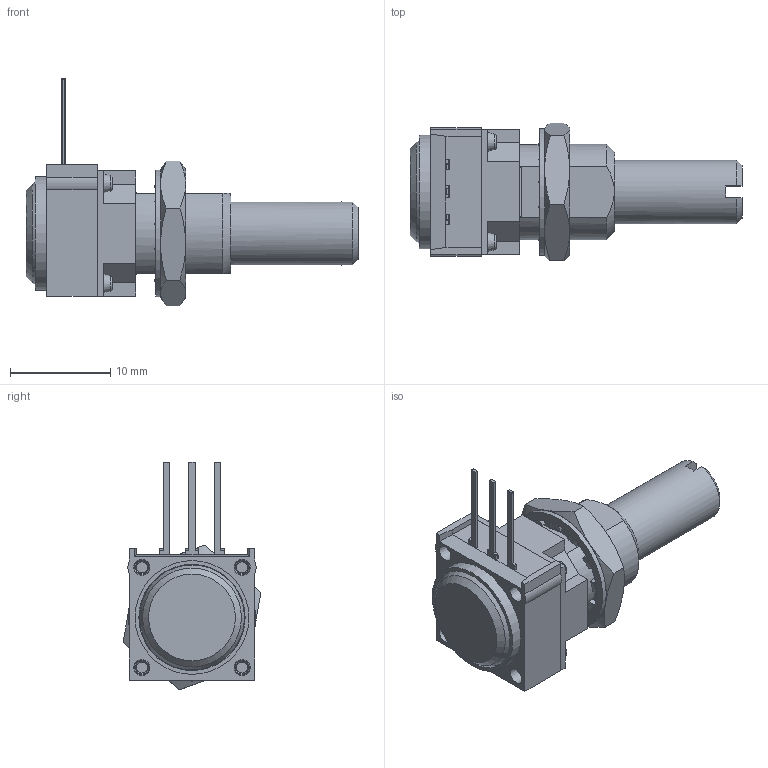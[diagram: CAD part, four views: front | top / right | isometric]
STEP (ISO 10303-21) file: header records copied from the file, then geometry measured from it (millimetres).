
FILE_DESCRIPTION( ( 'Unknown' ), '1' );
FILE_NAME( 'I:/Dev_Pots_Trimmers/01-Plans_Cao/P11/dossier_projet_SAP/P11S1F0GJSX10103MA/P11S1F0GJSX10103MA.stp', 'Unknown', ( 'Unknown' ), ( 'Unknown' ), 'PSStep 15.0.49', 'Unknown', ' ' );
FILE_SCHEMA( ( 'AUTOMOTIVE_DESIGN { 1 0 10303 214 1 1 1 1 }' ) );
Length unit declared in the file: millimetre
Products named in the file (27): M1-313P; M1-365210; M1-3650100; M1-AG-9695P; M1-3PI0937; M1-X10-103; 3650610; 3650640; 3650970; sortie ci us 2.54; 3656183; 3650603; Assem1; 3653300; 3653150; 3653060; 3650550; 3650540; 3653230; 0683952
Assembly tree (26 placements, depth 5):
  Assem1
    3653300
    3653150
    3653060
    3650550
    3650540
    3653230
    0683952
    M1-X10-103
      3650610
      3650640
      3650970
      sortie ci us 2.54
      sortie ci us 2.54
      sortie ci us 2.54
      3656183
      3656183
      3656183
      3656183
      3650603
      M1-3PI0937
        M1-365210
          M1-3650100
          M1-AG-9695P
          M1-AG-9695P
        M1-313P
          M1-313P
Bounding box: 33.13 x 13.76 x 22.73 mm (x, y, z)
Volume: 2219.9 mm3; surface area: 4353.4 mm2
Topology: 22 solids, 22 shells, 833 faces, 2237 edges, 1471 vertices
Faces by surface type: plane 490, cylinder 193, bspline 78, cone 61, torus 11
Full cylindrical faces by diameter (mm): 0.759 x1, 1.2 x1, 1.3 x4, 1.5 x10, 1.55 x4, 3.4 x1, 3.97 x1, 4 x2, 4.1 x2, 4.6 x1, 5.25 x2, 5.9 x1, 6.35 x2, 6.4 x1, 7.42 x1, 7.44 x1, 8.4 x1, 8.666 x1, 9.65 x1, 10.6 x1, 11.35 x1, 12.7 x1
Entity records: 34368 total; most frequent: CARTESIAN_POINT 7177, ORIENTED_EDGE 4222, DIRECTION 3939, EDGE_CURVE 2111, VERTEX_POINT 1431, AXIS2_PLACEMENT_3D 1322, LINE 1295, VECTOR 1295
